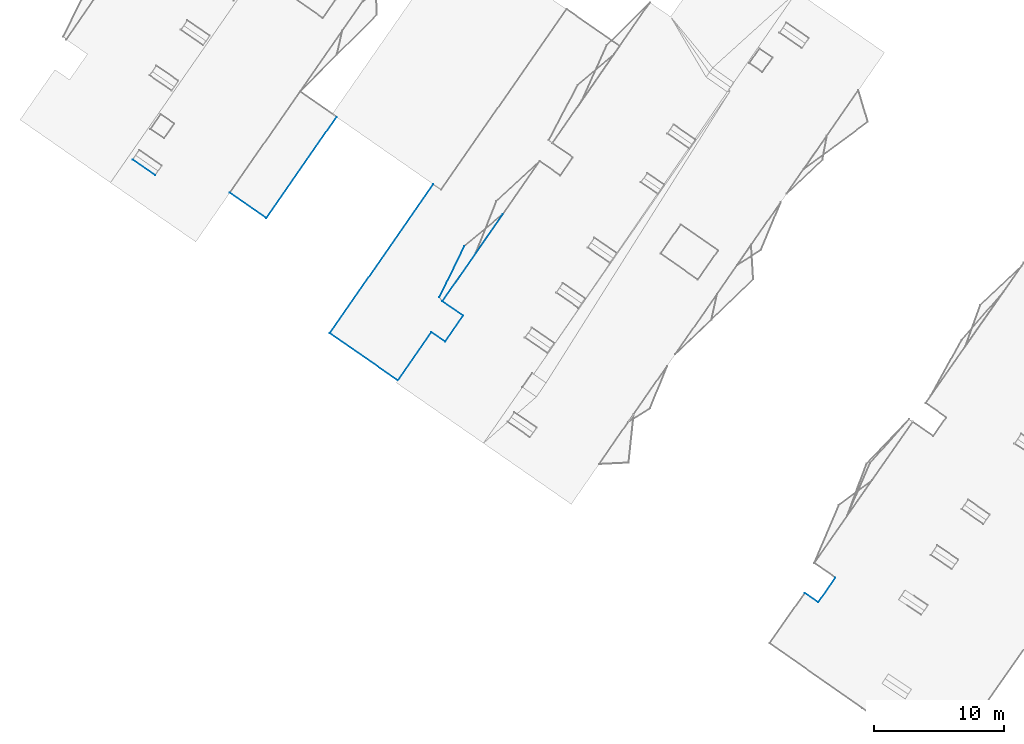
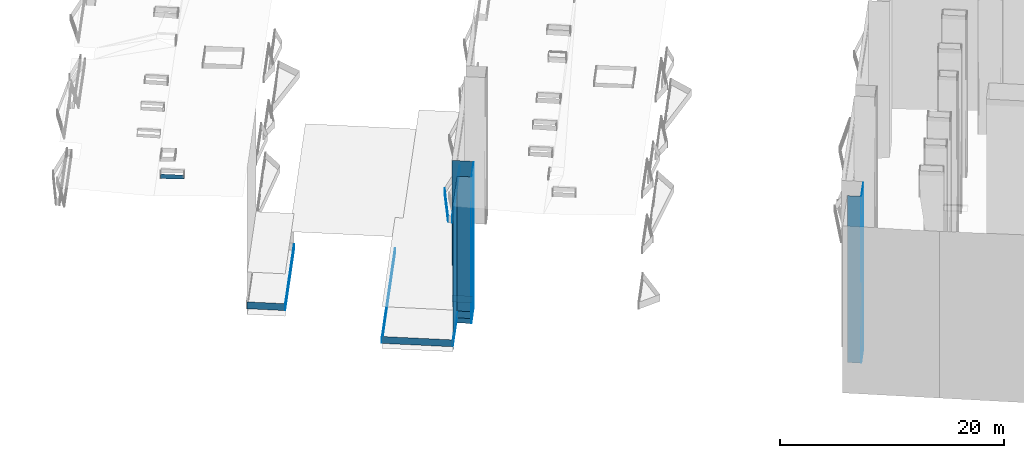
# Not in any storey, part 2 of 136: 27 walls.
"""IFC2X3 building model written with IfcOpenShell, lengths in metres."""

from ifc_helpers import new_model, entity, si_unit, converted_unit, origin, place, context, subcontext, project, spatial, face_set, surface_model, element, save


model = new_model("IFC2X3")

# Units and contexts
model_context = context("Model", 3, precision=1e-05, world=origin())
body_context = subcontext(model_context, "Body", "Model", "MODEL_VIEW")
ifc_project = project(units=[converted_unit("PLANEANGLEUNIT", "DEGREE", entity("IfcRatioMeasure", 0.0174532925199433), si_unit("PLANEANGLEUNIT", "RADIAN"), dimensions=[0, 0, 0, 0, 0, 0, 0]), si_unit("AREAUNIT", "SQUARE_METRE"), si_unit("LENGTHUNIT", "METRE")], contexts=[model_context])

# Site, building
site_placement = place(None, origin())
site = spatial("IfcSite", under=ifc_project, at=site_placement, Name="_site", CompositionType="ELEMENT")
building_1_placement = place(site_placement, origin())
building_1 = spatial("IfcBuilding", under=site, at=building_1_placement, Name="_building", CompositionType="ELEMENT")

# Walls
wall_1_placement = place(building_1_placement, origin())
element("IfcWall", 1, at=wall_1_placement, inside=building_1, Name="Wall", context=body_context, shape_type="SurfaceModel", body=[
    surface_model("IfcFaceBasedSurfaceModel", [(-0.84, 24.2, 53.93), (0.19, 23.48, 53.93), (0.19, 23.48, 35.766), (-0.84, 24.2, 35.761)], [face_set([[[0, 1, 2, 3]]])]),
])
wall_2_placement = place(building_1_placement, origin())
element("IfcWall", 2, at=wall_2_placement, inside=building_1, Name="Wall", context=body_context, shape_type="SurfaceModel", body=[
    surface_model("IfcFaceBasedSurfaceModel", [(0.19, 23.48, 53.93), (1.5, 25.37, 53.93), (1.5, 25.37, 35.775), (0.19, 23.48, 35.766)], [face_set([[[0, 1, 2, 3]]])]),
])

# Building
building_2_placement = place(site_placement, origin())
building_2 = spatial("IfcBuilding", under=site, at=building_2_placement, Name="_building", CompositionType="ELEMENT")

# Walls
wall_3_placement = place(building_2_placement, origin())
element("IfcWall", 3, at=wall_3_placement, inside=building_2, Name="Wall", context=body_context, shape_type="SurfaceModel", body=[
    surface_model("IfcFaceBasedSurfaceModel", [(-29.47, 44.19, 38.52), (-32.04, 40.49, 38.52), (-32.04, 40.49, 39.27), (-29.47, 44.19, 39.27)], [face_set([[[0, 1, 2, 3]]])]),
])
wall_4_placement = place(building_2_placement, origin())
element("IfcWall", 4, at=wall_4_placement, inside=building_2, Name="Wall", context=body_context, shape_type="SurfaceModel", body=[
    surface_model("IfcFaceBasedSurfaceModel", [(-28.41, 43.46, 38.52), (-29.47, 44.19, 38.52), (-29.47, 44.19, 39.27), (-28.41, 43.46, 39.27)], [face_set([[[0, 1, 2, 3]]])]),
])
wall_5_placement = place(building_2_placement, origin())
element("IfcWall", 5, at=wall_5_placement, inside=building_2, Name="Wall", context=body_context, shape_type="SurfaceModel", body=[
    surface_model("IfcFaceBasedSurfaceModel", [(-27.04, 45.45, 38.52), (-28.41, 43.46, 38.52), (-28.41, 43.46, 39.27), (-27.04, 45.45, 39.27)], [face_set([[[0, 1, 2, 3]]])]),
])
wall_6_placement = place(building_2_placement, origin())
element("IfcWall", 6, at=wall_6_placement, inside=building_2, Name="Wall", context=body_context, shape_type="SurfaceModel", body=[
    surface_model("IfcFaceBasedSurfaceModel", [(-37.25, 44.11, 38.52), (-29.32, 55.521, 38.52), (-29.32, 55.521, 39.27), (-37.25, 44.11, 39.27)], [face_set([[[0, 1, 2, 3]]])]),
])
wall_7_placement = place(building_2_placement, origin())
element("IfcWall", 7, at=wall_7_placement, inside=building_2, Name="Wall", context=body_context, shape_type="SurfaceModel", body=[
    surface_model("IfcFaceBasedSurfaceModel", [(-27.04, 45.45, 53.94), (-28.62, 46.55, 53.94), (-28.62, 46.55, 37.98), (-27.04, 45.45, 37.98)], [face_set([[[0, 1, 2, 3]]])]),
])
wall_8_placement = place(building_2_placement, origin())
element("IfcWall", 8, at=wall_8_placement, inside=building_2, Name="Wall", context=body_context, shape_type="SurfaceModel", body=[
    surface_model("IfcFaceBasedSurfaceModel", [(-28.41, 43.46, 53.94), (-27.04, 45.45, 53.94), (-27.04, 45.45, 37.98), (-28.41, 43.46, 37.98)], [face_set([[[0, 1, 2, 3]]])]),
])
wall_9_placement = place(building_2_placement, origin())
element("IfcWall", 9, at=wall_9_placement, inside=building_2, Name="Wall", context=body_context, shape_type="SurfaceModel", body=[
    surface_model("IfcFaceBasedSurfaceModel", [(-29.47, 44.19, 53.94), (-28.41, 43.46, 53.94), (-28.41, 43.46, 37.98), (-29.47, 44.19, 37.98)], [face_set([[[0, 1, 2, 3]]])]),
])
wall_10_placement = place(building_2_placement, origin())
element("IfcWall", 10, at=wall_10_placement, inside=building_2, Name="Wall", context=body_context, shape_type="SurfaceModel", body=[
    surface_model("IfcFaceBasedSurfaceModel", [(-32.04, 40.49, 53.94), (-29.47, 44.19, 53.94), (-29.47, 44.19, 37.98), (-32.04, 40.49, 37.98)], [face_set([[[0, 1, 2, 3]]])]),
])
wall_11_placement = place(building_2_placement, origin())
element("IfcWall", 11, at=wall_11_placement, inside=building_2, Name="Wall", context=body_context, shape_type="SurfaceModel", body=[
    surface_model("IfcFaceBasedSurfaceModel", [(-29.47, 44.19, 38.52), (-32.04, 40.49, 38.52), (-32.04, 40.49, 39.27), (-29.47, 44.19, 39.27)], [face_set([[[0, 1, 2, 3]]])]),
])
wall_12_placement = place(building_2_placement, origin())
element("IfcWall", 12, at=wall_12_placement, inside=building_2, Name="Wall", context=body_context, shape_type="SurfaceModel", body=[
    surface_model("IfcFaceBasedSurfaceModel", [(-28.62, 46.55, 38.52), (-27.04, 45.45, 38.52), (-27.04, 45.45, 39.27), (-28.62, 46.55, 39.27)], [face_set([[[0, 1, 2, 3]]])]),
])
wall_13_placement = place(building_2_placement, origin())
element("IfcWall", 13, at=wall_13_placement, inside=building_2, Name="Wall", context=body_context, shape_type="SurfaceModel", body=[
    surface_model("IfcFaceBasedSurfaceModel", [(-32.04, 40.49, 38.52), (-37.25, 44.11, 38.52), (-37.25, 44.11, 39.27), (-32.04, 40.49, 39.27)], [face_set([[[0, 1, 2, 3]]])]),
])
wall_14_placement = place(building_2_placement, origin())
element("IfcWall", 14, at=wall_14_placement, inside=building_2, Name="Wall", context=body_context, shape_type="SurfaceModel", body=[
    surface_model("IfcFaceBasedSurfaceModel", [(-37.25, 44.11, 38.52), (-29.32, 55.521, 38.52), (-29.32, 55.521, 39.27), (-37.25, 44.11, 39.27)], [face_set([[[0, 1, 2, 3]]])]),
])
wall_15_placement = place(building_2_placement, origin())
element("IfcWall", 15, at=wall_15_placement, inside=building_2, Name="Wall", context=body_context, shape_type="SurfaceModel", body=[
    surface_model("IfcFaceBasedSurfaceModel", [(-28.41, 43.46, 38.52), (-29.47, 44.19, 38.52), (-29.47, 44.19, 39.27), (-28.41, 43.46, 39.27)], [face_set([[[0, 1, 2, 3]]])]),
])
wall_16_placement = place(building_2_placement, origin())
element("IfcWall", 16, at=wall_16_placement, inside=building_2, Name="Wall", context=body_context, shape_type="SurfaceModel", body=[
    surface_model("IfcFaceBasedSurfaceModel", [(-32.04, 40.49, 38.52), (-37.25, 44.11, 38.52), (-37.25, 44.11, 39.27), (-32.04, 40.49, 39.27)], [face_set([[[0, 1, 2, 3]]])]),
])
wall_17_placement = place(building_2_placement, origin())
element("IfcWall", 17, at=wall_17_placement, inside=building_2, Name="Wall", context=body_context, shape_type="SurfaceModel", body=[
    surface_model("IfcFaceBasedSurfaceModel", [(-27.04, 45.45, 38.52), (-28.41, 43.46, 38.52), (-28.41, 43.46, 39.27), (-27.04, 45.45, 39.27)], [face_set([[[0, 1, 2, 3]]])]),
])
wall_18_placement = place(building_2_placement, origin())
element("IfcWall", 18, at=wall_18_placement, inside=building_2, Name="Wall", context=body_context, shape_type="SurfaceModel", body=[
    surface_model("IfcFaceBasedSurfaceModel", [(-28.62, 46.55, 38.52), (-27.04, 45.45, 38.52), (-27.04, 45.45, 39.27), (-28.62, 46.55, 39.27)], [face_set([[[0, 1, 2, 3]]])]),
])
wall_19_placement = place(building_2_placement, origin())
element("IfcWall", 19, at=wall_19_placement, inside=building_2, Name="Wall", context=body_context, shape_type="SurfaceModel", body=[
    surface_model("IfcFaceBasedSurfaceModel", [(-28.85, 46.86, 47.1), (-26.94, 50.78, 47.1), (-26.94, 50.78, 47.85), (-28.85, 46.86, 47.85)], [face_set([[[0, 1, 2, 3]]])]),
])
wall_20_placement = place(building_2_placement, origin())
element("IfcWall", 20, at=wall_20_placement, inside=building_2, Name="Wall", context=body_context, shape_type="SurfaceModel", body=[
    surface_model("IfcFaceBasedSurfaceModel", [(-23.99, 53.23, 47.1), (-28.62, 46.55, 47.1), (-28.62, 46.55, 47.85), (-23.99, 53.23, 47.85)], [face_set([[[0, 1, 2, 3]]])]),
])
wall_21_placement = place(building_2_placement, origin())
element("IfcWall", 21, at=wall_21_placement, inside=building_2, Name="Wall", context=body_context, shape_type="SurfaceModel", body=[
    surface_model("IfcFaceBasedSurfaceModel", [(-28.85, 46.86, 47.1), (-26.94, 50.78, 47.1), (-26.94, 50.78, 47.85), (-28.85, 46.86, 47.85)], [face_set([[[0, 1, 2, 3]]])]),
])
wall_22_placement = place(building_2_placement, origin())
element("IfcWall", 22, at=wall_22_placement, inside=building_2, Name="Wall", context=body_context, shape_type="SurfaceModel", body=[
    surface_model("IfcFaceBasedSurfaceModel", [(-23.99, 53.23, 47.1), (-28.62, 46.55, 47.1), (-28.62, 46.55, 47.85), (-23.99, 53.23, 47.85)], [face_set([[[0, 1, 2, 3]]])]),
])

# Building
building_3_placement = place(site_placement, origin())
building_3 = spatial("IfcBuilding", under=site, at=building_3_placement, Name="_building", CompositionType="ELEMENT")

# Walls
wall_23_placement = place(building_3_placement, origin())
element("IfcWall", 23, at=wall_23_placement, inside=building_3, Name="Wall", context=body_context, shape_type="SurfaceModel", body=[
    surface_model("IfcFaceBasedSurfaceModel", [(-42.12, 52.94, 38.44), (-44.91, 54.88, 38.44), (-44.91, 54.88, 39.19), (-42.12, 52.94, 39.19)], [face_set([[[0, 1, 2, 3]]])]),
])
wall_24_placement = place(building_3_placement, origin())
element("IfcWall", 24, at=wall_24_placement, inside=building_3, Name="Wall", context=body_context, shape_type="SurfaceModel", body=[
    surface_model("IfcFaceBasedSurfaceModel", [(-50.65, 56.22, 54.18), (-52.37, 57.41, 54.18), (-52.37, 57.41, 53.675), (-50.65, 56.22, 53.771)], [face_set([[[0, 1, 2, 3]]])]),
])
wall_25_placement = place(building_3_placement, origin())
element("IfcWall", 25, at=wall_25_placement, inside=building_3, Name="Wall", context=body_context, shape_type="SurfaceModel", body=[
    surface_model("IfcFaceBasedSurfaceModel", [(-36.74, 60.68, 38.44), (-42.12, 52.94, 38.44), (-42.12, 52.94, 39.19), (-36.74, 60.68, 39.19)], [face_set([[[0, 1, 2, 3]]])]),
])
wall_26_placement = place(building_3_placement, origin())
element("IfcWall", 26, at=wall_26_placement, inside=building_3, Name="Wall", context=body_context, shape_type="SurfaceModel", body=[
    surface_model("IfcFaceBasedSurfaceModel", [(-42.12, 52.94, 38.44), (-44.91, 54.88, 38.44), (-44.91, 54.88, 39.19), (-42.12, 52.94, 39.19)], [face_set([[[0, 1, 2, 3]]])]),
])
wall_27_placement = place(building_3_placement, origin())
element("IfcWall", 27, at=wall_27_placement, inside=building_3, Name="Wall", context=body_context, shape_type="SurfaceModel", body=[
    surface_model("IfcFaceBasedSurfaceModel", [(-36.74, 60.68, 38.44), (-42.12, 52.94, 38.44), (-42.12, 52.94, 39.19), (-36.74, 60.68, 39.19)], [face_set([[[0, 1, 2, 3]]])]),
])

save(model, "model.ifc")
